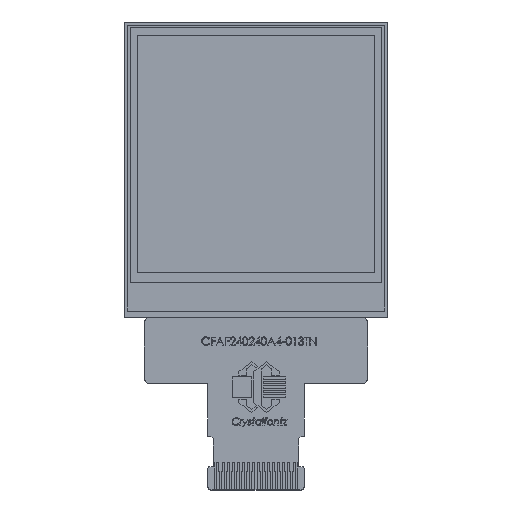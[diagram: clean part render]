
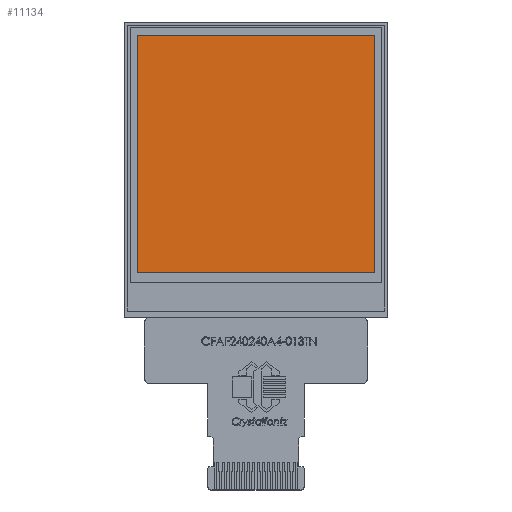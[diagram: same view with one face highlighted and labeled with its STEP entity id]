
A CAD part, top view. The second image highlights one B-rep face of the part: STEP entity #11134.
In plain terms, the highlighted planar face has unit normal (0, 0, 1).
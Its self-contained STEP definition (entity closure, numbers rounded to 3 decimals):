
#911 = VERTEX_POINT ( 'NONE', #9439 ) ;
#1002 = CARTESIAN_POINT ( 'NONE',  ( 11.7, 0., 1.5 ) ) ;
#1533 = CARTESIAN_POINT ( 'NONE',  ( 0., 0., 1.5 ) ) ;
#2073 = VERTEX_POINT ( 'NONE', #27139 ) ;
#2494 = ORIENTED_EDGE ( 'NONE', *, *, #23224, .F. ) ;
#4884 = DIRECTION ( 'NONE',  ( -1., 0., 0. ) ) ;
#7269 = VECTOR ( 'NONE', #26094, 1000. ) ;
#8383 = ORIENTED_EDGE ( 'NONE', *, *, #24085, .F. ) ;
#9439 = CARTESIAN_POINT ( 'NONE',  ( 11.7, 13.275, 1.5 ) ) ;
#10249 = CARTESIAN_POINT ( 'NONE',  ( 11.7, -10.125, 1.5 ) ) ;
#11048 = DIRECTION ( 'NONE',  ( 1., 0., 0. ) ) ;
#11134 = ADVANCED_FACE ( 'NONE', ( #25611 ), #20054, .T. ) ;
#13089 = CARTESIAN_POINT ( 'NONE',  ( -11.7, 13.275, 1.5 ) ) ;
#13269 = LINE ( 'NONE', #24771, #21483 ) ;
#14699 = VECTOR ( 'NONE', #26727, 1000. ) ;
#15404 = DIRECTION ( 'NONE',  ( 1., 0., 0. ) ) ;
#15681 = EDGE_LOOP ( 'NONE', ( #8383, #2494, #32879, #24159 ) ) ;
#20054 = PLANE ( 'NONE',  #35164 ) ;
#21483 = VECTOR ( 'NONE', #4884, 1000. ) ;
#23224 = EDGE_CURVE ( 'NONE', #24925, #2073, #13269, .T. ) ;
#24085 = EDGE_CURVE ( 'NONE', #2073, #36659, #25717, .T. ) ;
#24159 = ORIENTED_EDGE ( 'NONE', *, *, #26141, .F. ) ;
#24271 = DIRECTION ( 'NONE',  ( 0., 0., 1. ) ) ;
#24771 = CARTESIAN_POINT ( 'NONE',  ( 0., -10.125, 1.5 ) ) ;
#24925 = VERTEX_POINT ( 'NONE', #10249 ) ;
#25611 = FACE_OUTER_BOUND ( 'NONE', #15681, .T. ) ;
#25717 = LINE ( 'NONE', #34865, #7269 ) ;
#26094 = DIRECTION ( 'NONE',  ( 0., 1., 0. ) ) ;
#26141 = EDGE_CURVE ( 'NONE', #36659, #911, #33237, .T. ) ;
#26165 = LINE ( 'NONE', #1002, #14699 ) ;
#26727 = DIRECTION ( 'NONE',  ( 0., -1., 0. ) ) ;
#27139 = CARTESIAN_POINT ( 'NONE',  ( -11.7, -10.125, 1.5 ) ) ;
#29591 = VECTOR ( 'NONE', #11048, 1000. ) ;
#32879 = ORIENTED_EDGE ( 'NONE', *, *, #36261, .F. ) ;
#33237 = LINE ( 'NONE', #36028, #29591 ) ;
#34865 = CARTESIAN_POINT ( 'NONE',  ( -11.7, 0., 1.5 ) ) ;
#35164 = AXIS2_PLACEMENT_3D ( 'NONE', #1533, #24271, #15404 ) ;
#36028 = CARTESIAN_POINT ( 'NONE',  ( 0., 13.275, 1.5 ) ) ;
#36261 = EDGE_CURVE ( 'NONE', #911, #24925, #26165, .T. ) ;
#36659 = VERTEX_POINT ( 'NONE', #13089 ) ;
